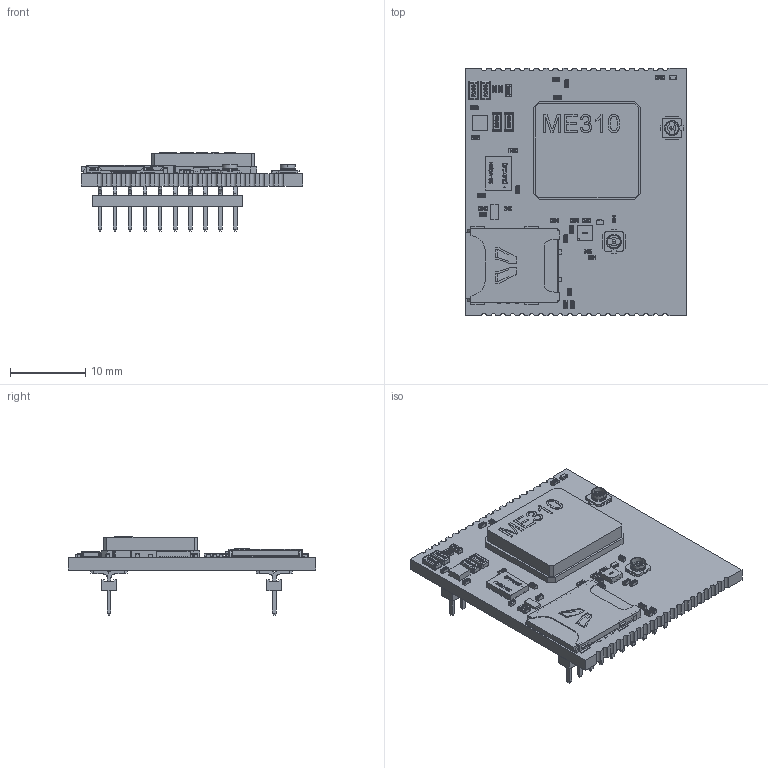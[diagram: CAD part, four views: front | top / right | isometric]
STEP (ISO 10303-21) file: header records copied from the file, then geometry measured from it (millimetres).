
FILE_DESCRIPTION(('Open CASCADE Model'),'2;1');
FILE_NAME('Open CASCADE Shape Model','2020-04-30T16:22:30',('Author'),( 'Open CASCADE'),'Open CASCADE STEP processor 6.8','Open CASCADE 6.8' ,'Unknown');
FILE_SCHEMA(('AUTOMOTIVE_DESIGN { 1 0 10303 214 1 1 1 1 }'));
Length unit declared in the file: millimetre
Products named in the file (78): PCB; BoardDES0272_10; Open CASCADE STEP translator 6.8 4.1.1; Open CASCADE STEP translator 6.8 4.1.1.1; R9DES0272_10; Resistor_1005-0402; R3DES0272_10; U3DES0272_10; 6326260880; Extruded; C22DES0272_10; Capacitor_0402(1005M); C23DES0272_10; C21DES0272_10; C20DES0272_10; R8DES0272_10; D1DES0272_10; LED_0402_RED; U4DES0272_10; DFN_6_2x2; U6DES0272_10; 6326257600; U5DES0272_10; VQFN-20_(3_5x4_5); R7DES0272_10; R1DES0272_10; L2DES0272_10; MuRata_LQW15; L1DES0272_10; Resistor_1609-0603; C19DES0272_10; Capacitor_0805(2012M); C18DES0272_10; C17DES0272_10; C11DES0272_10; C10DES0272_10; C9DES0272_10; C8DES0272_10; C7DES0272_10; C6DES0272_10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
Assembly tree (107 placements, depth 6):
  PCB
    BoardDES0272_10
      Open CASCADE STEP translator 6.8 4.1.1
        Open CASCADE STEP translator 6.8 4.1.1.1
    R9DES0272_10
      Resistor_1005-0402
    R3DES0272_10
      Resistor_1005-0402
    U3DES0272_10
      6326260880
        Extruded
    C22DES0272_10
      Capacitor_0402(1005M)
    C23DES0272_10
      Capacitor_0402(1005M)
    C21DES0272_10
      Capacitor_0402(1005M)
    C20DES0272_10
      Capacitor_0402(1005M)
    R8DES0272_10
      Resistor_1005-0402
    D1DES0272_10
      LED_0402_RED
    U4DES0272_10
      DFN_6_2x2
    U6DES0272_10
      6326257600
        Extruded
    U5DES0272_10
      VQFN-20_(3_5x4_5)
    R7DES0272_10
      Resistor_1005-0402
    R1DES0272_10
      Resistor_1005-0402
    L2DES0272_10
      MuRata_LQW15
    L1DES0272_10
      Resistor_1609-0603
    C19DES0272_10
      Capacitor_0805(2012M)
    C18DES0272_10
      Capacitor_0805(2012M)
    C17DES0272_10
      Capacitor_0402(1005M)
    C11DES0272_10
      Capacitor_0402(1005M)
    C10DES0272_10
      Capacitor_0402(1005M)
    C9DES0272_10
      Capacitor_0402(1005M)
    C8DES0272_10
      Capacitor_0402(1005M)
    C7DES0272_10
      Capacitor_0402(1005M)
    C6DES0272_10
      Capacitor_0402(1005M)
    C5DES0272_10
      Capacitor_0402(1005M)
    C4DES0272_10
      Capacitor_0805(2012M)
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Bounding box: 29.5 x 33 x 10.39 mm (x, y, z)
Volume: 2864.6 mm3; surface area: 5760.7 mm2
Topology: 141 solids, 141 shells, 5759 faces, 14892 edges, 9548 vertices
Faces by surface type: plane 3144, bspline 1548, cylinder 873, torus 93, extrusion 53, sphere 28, cone 16, revolution 4
Entity records: 101751 total; most frequent: CARTESIAN_POINT 33870, ORIENTED_EDGE 12504, DIRECTION 10659, EDGE_CURVE 6252, VECTOR 4589, LINE 4536, VERTEX_POINT 4035, AXIS2_PLACEMENT_3D 3034
